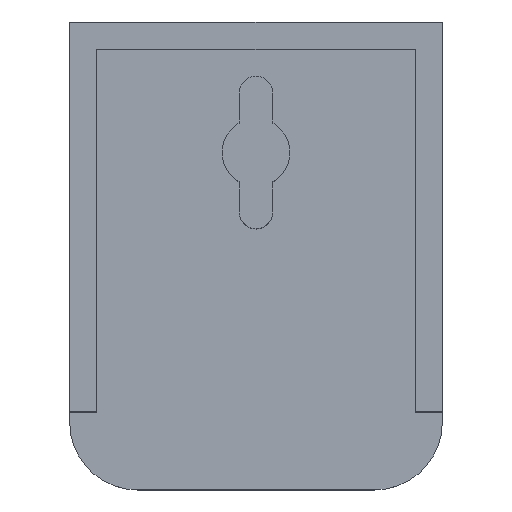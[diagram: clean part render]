
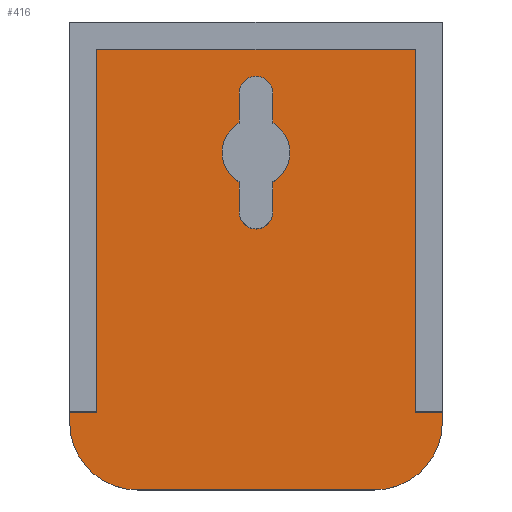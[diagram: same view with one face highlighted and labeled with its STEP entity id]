
A CAD part, top view. The second image highlights one B-rep face of the part: STEP entity #416.
In plain terms, the highlighted planar face has unit normal (0, 0, 1).
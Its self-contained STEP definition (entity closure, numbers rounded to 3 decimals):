
#27=DIRECTION('',(0.,1.,0.));
#28=VECTOR('',#27,0.3);
#29=CARTESIAN_POINT('',(-5.5,-4.9,1.));
#30=LINE('',#29,#28);
#39=CARTESIAN_POINT('',(0.,4.8,1.));
#40=DIRECTION('',(0.,0.,-1.));
#41=DIRECTION('',(-1.,0.,0.));
#42=AXIS2_PLACEMENT_3D('',#39,#40,#41);
#44=DIRECTION('',(0.,1.,0.));
#45=VECTOR('',#44,0.884);
#46=CARTESIAN_POINT('',(-0.5,3.916,1.));
#47=LINE('',#46,#45);
#48=CARTESIAN_POINT('',(0.,3.05,1.));
#49=DIRECTION('',(0.,0.,-1.));
#50=DIRECTION('',(-0.5,-0.866,0.));
#51=AXIS2_PLACEMENT_3D('',#48,#49,#50);
#53=DIRECTION('',(0.,1.,0.));
#54=VECTOR('',#53,0.884);
#55=CARTESIAN_POINT('',(-0.5,1.3,1.));
#56=LINE('',#55,#54);
#57=CARTESIAN_POINT('',(0.,1.3,1.));
#58=DIRECTION('',(0.,0.,-1.));
#59=DIRECTION('',(1.,0.,0.));
#60=AXIS2_PLACEMENT_3D('',#57,#58,#59);
#62=DIRECTION('',(0.,-1.,0.));
#63=VECTOR('',#62,0.884);
#64=CARTESIAN_POINT('',(0.5,2.184,1.));
#65=LINE('',#64,#63);
#66=CARTESIAN_POINT('',(0.,3.05,1.));
#67=DIRECTION('',(0.,0.,-1.));
#68=DIRECTION('',(0.5,0.866,0.));
#69=AXIS2_PLACEMENT_3D('',#66,#67,#68);
#71=DIRECTION('',(0.,-1.,0.));
#72=VECTOR('',#71,0.884);
#73=CARTESIAN_POINT('',(0.5,4.8,1.));
#74=LINE('',#73,#72);
#75=DIRECTION('',(-1.,0.,0.));
#76=VECTOR('',#75,0.8);
#77=CARTESIAN_POINT('',(-4.7,-4.6,1.));
#78=LINE('',#77,#76);
#79=DIRECTION('',(0.,-1.,0.));
#80=VECTOR('',#79,10.7);
#81=CARTESIAN_POINT('',(-4.7,6.1,1.));
#82=LINE('',#81,#80);
#83=DIRECTION('',(-1.,0.,0.));
#84=VECTOR('',#83,9.4);
#85=CARTESIAN_POINT('',(4.7,6.1,1.));
#86=LINE('',#85,#84);
#87=DIRECTION('',(0.,1.,0.));
#88=VECTOR('',#87,10.7);
#89=CARTESIAN_POINT('',(4.7,-4.6,1.));
#90=LINE('',#89,#88);
#91=DIRECTION('',(-1.,0.,0.));
#92=VECTOR('',#91,0.8);
#93=CARTESIAN_POINT('',(5.5,-4.6,1.));
#94=LINE('',#93,#92);
#179=DIRECTION('',(0.,1.,0.));
#180=VECTOR('',#179,0.3);
#181=CARTESIAN_POINT('',(5.5,-4.9,1.));
#182=LINE('',#181,#180);
#195=CARTESIAN_POINT('',(3.5,-4.9,1.));
#196=DIRECTION('',(0.,0.,1.));
#197=DIRECTION('',(0.,-1.,0.));
#198=AXIS2_PLACEMENT_3D('',#195,#196,#197);
#204=DIRECTION('',(1.,0.,0.));
#205=VECTOR('',#204,7.);
#206=CARTESIAN_POINT('',(-3.5,-6.9,1.));
#207=LINE('',#206,#205);
#212=CARTESIAN_POINT('',(-3.5,-4.9,1.));
#213=DIRECTION('',(0.,0.,1.));
#214=DIRECTION('',(-1.,0.,0.));
#215=AXIS2_PLACEMENT_3D('',#212,#213,#214);
#269=CARTESIAN_POINT('',(-4.7,6.1,1.));
#270=CARTESIAN_POINT('',(-4.7,-4.6,1.));
#271=VERTEX_POINT('',#269);
#272=VERTEX_POINT('',#270);
#273=CARTESIAN_POINT('',(4.7,-4.6,1.));
#274=CARTESIAN_POINT('',(4.7,6.1,1.));
#275=VERTEX_POINT('',#273);
#276=VERTEX_POINT('',#274);
#277=CARTESIAN_POINT('',(-0.5,4.8,1.));
#278=CARTESIAN_POINT('',(0.5,4.8,1.));
#279=VERTEX_POINT('',#277);
#280=VERTEX_POINT('',#278);
#281=CARTESIAN_POINT('',(0.5,3.916,1.));
#282=VERTEX_POINT('',#281);
#283=CARTESIAN_POINT('',(0.5,2.184,1.));
#284=VERTEX_POINT('',#283);
#285=CARTESIAN_POINT('',(0.5,1.3,1.));
#286=VERTEX_POINT('',#285);
#287=CARTESIAN_POINT('',(-0.5,1.3,1.));
#288=VERTEX_POINT('',#287);
#289=CARTESIAN_POINT('',(-0.5,2.184,1.));
#290=VERTEX_POINT('',#289);
#291=CARTESIAN_POINT('',(-0.5,3.916,1.));
#292=VERTEX_POINT('',#291);
#321=CARTESIAN_POINT('',(-5.5,-4.9,1.));
#322=CARTESIAN_POINT('',(-5.5,-4.6,1.));
#323=VERTEX_POINT('',#321);
#324=VERTEX_POINT('',#322);
#325=CARTESIAN_POINT('',(-3.5,-6.9,1.));
#326=VERTEX_POINT('',#325);
#327=CARTESIAN_POINT('',(3.5,-6.9,1.));
#328=VERTEX_POINT('',#327);
#329=CARTESIAN_POINT('',(5.5,-4.9,1.));
#330=VERTEX_POINT('',#329);
#331=CARTESIAN_POINT('',(5.5,-4.6,1.));
#332=VERTEX_POINT('',#331);
#372=CARTESIAN_POINT('',(0.,0.,1.));
#373=DIRECTION('',(0.,0.,1.));
#374=DIRECTION('',(1.,0.,0.));
#375=AXIS2_PLACEMENT_3D('',#372,#373,#374);
#376=PLANE('',#375);
#377=ORIENTED_EDGE('',*,*,#358,.T.);
#379=ORIENTED_EDGE('',*,*,#378,.F.);
#381=ORIENTED_EDGE('',*,*,#380,.F.);
#383=ORIENTED_EDGE('',*,*,#382,.F.);
#385=ORIENTED_EDGE('',*,*,#384,.F.);
#387=ORIENTED_EDGE('',*,*,#386,.F.);
#389=ORIENTED_EDGE('',*,*,#388,.F.);
#391=ORIENTED_EDGE('',*,*,#390,.F.);
#393=ORIENTED_EDGE('',*,*,#392,.F.);
#395=ORIENTED_EDGE('',*,*,#394,.F.);
#396=EDGE_LOOP('',(#377,#379,#381,#383,#385,#387,#389,#391,#393,#395));
#397=FACE_OUTER_BOUND('',#396,.F.);
#399=ORIENTED_EDGE('',*,*,#398,.F.);
#401=ORIENTED_EDGE('',*,*,#400,.F.);
#403=ORIENTED_EDGE('',*,*,#402,.F.);
#405=ORIENTED_EDGE('',*,*,#404,.F.);
#407=ORIENTED_EDGE('',*,*,#406,.F.);
#409=ORIENTED_EDGE('',*,*,#408,.F.);
#411=ORIENTED_EDGE('',*,*,#410,.F.);
#413=ORIENTED_EDGE('',*,*,#412,.F.);
#414=EDGE_LOOP('',(#399,#401,#403,#405,#407,#409,#411,#413));
#415=FACE_BOUND('',#414,.F.);
#416=ADVANCED_FACE('',(#397,#415),#376,.T.);
#43=CIRCLE('',#42,0.5);
#52=CIRCLE('',#51,1.);
#61=CIRCLE('',#60,0.5);
#70=CIRCLE('',#69,1.);
#199=CIRCLE('',#198,2.);
#216=CIRCLE('',#215,2.);
#358=EDGE_CURVE('',#323,#324,#30,.T.);
#378=EDGE_CURVE('',#272,#324,#78,.T.);
#380=EDGE_CURVE('',#271,#272,#82,.T.);
#382=EDGE_CURVE('',#276,#271,#86,.T.);
#384=EDGE_CURVE('',#275,#276,#90,.T.);
#386=EDGE_CURVE('',#332,#275,#94,.T.);
#388=EDGE_CURVE('',#330,#332,#182,.T.);
#390=EDGE_CURVE('',#328,#330,#199,.T.);
#392=EDGE_CURVE('',#326,#328,#207,.T.);
#394=EDGE_CURVE('',#323,#326,#216,.T.);
#398=EDGE_CURVE('',#279,#280,#43,.T.);
#400=EDGE_CURVE('',#292,#279,#47,.T.);
#402=EDGE_CURVE('',#290,#292,#52,.T.);
#404=EDGE_CURVE('',#288,#290,#56,.T.);
#406=EDGE_CURVE('',#286,#288,#61,.T.);
#408=EDGE_CURVE('',#284,#286,#65,.T.);
#410=EDGE_CURVE('',#282,#284,#70,.T.);
#412=EDGE_CURVE('',#280,#282,#74,.T.);
